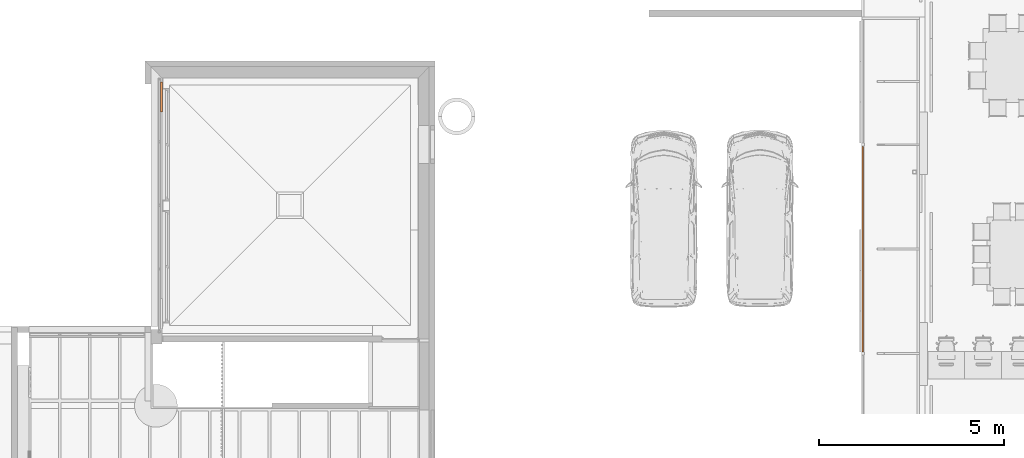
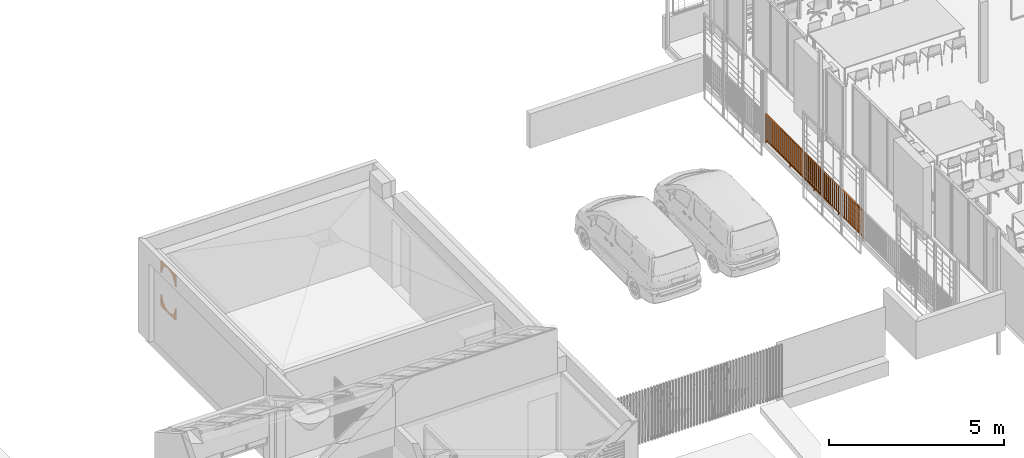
# One storey, part 43 of 51: 2 proxies.
"""IFC2X3 building model written with IfcOpenShell, lengths in metres."""

from ifc_helpers import new_model, entity, si_unit, converted_unit, derived_unit, direction, frame, frame_2d, origin, place, context, subcontext, project, spatial, polyline, circle_curve, parameter, trimmed, segment, composite_curve, rectangle, outline, extrude, source, transform, mapped, material, type_object, type_shapes, element, save


model = new_model("IFC2X3")

# Units and contexts
model_context = context("Model", 3, precision=1e-05, world=origin(), true_north=direction((6.123031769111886e-17, 1.0)))
body_context = subcontext(model_context, "Body", "Model", "MODEL_VIEW")
ifc_project = project(units=[si_unit("LENGTHUNIT", "METRE"), si_unit("AREAUNIT", "SQUARE_METRE"), si_unit("VOLUMEUNIT", "CUBIC_METRE"), converted_unit("PLANEANGLEUNIT", "DEGREE", entity("IfcRatioMeasure", 0.017453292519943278), si_unit("PLANEANGLEUNIT", "RADIAN"), dimensions=[0, 0, 0, 0, 0, 0, 0]), si_unit("MASSUNIT", "GRAM", prefix="KILO"), derived_unit("MASSDENSITYUNIT", [(si_unit("MASSUNIT", "GRAM", prefix="KILO"), 1), (si_unit("LENGTHUNIT", "METRE"), -3)]), derived_unit("MOMENTOFINERTIAUNIT", [(si_unit("LENGTHUNIT", "METRE"), 4)]), si_unit("TIMEUNIT", "SECOND"), si_unit("FREQUENCYUNIT", "HERTZ"), si_unit("THERMODYNAMICTEMPERATUREUNIT", "DEGREE_CELSIUS"), derived_unit("THERMALTRANSMITTANCEUNIT", [(si_unit("MASSUNIT", "GRAM", prefix="KILO"), 1), (si_unit("THERMODYNAMICTEMPERATUREUNIT", "KELVIN"), -1), (si_unit("TIMEUNIT", "SECOND"), -3)]), derived_unit("THERMALCONDUCTANCEUNIT", [(si_unit("MASSUNIT", "GRAM", prefix="KILO"), 1), (si_unit("LENGTHUNIT", "METRE"), 1), (si_unit("THERMODYNAMICTEMPERATUREUNIT", "KELVIN"), -1), (si_unit("TIMEUNIT", "SECOND"), -3)]), derived_unit("VOLUMETRICFLOWRATEUNIT", [(si_unit("LENGTHUNIT", "METRE"), 3), (si_unit("TIMEUNIT", "SECOND"), -1)]), derived_unit("MASSFLOWRATEUNIT", [(si_unit("MASSUNIT", "GRAM", prefix="KILO"), 1), (si_unit("TIMEUNIT", "SECOND"), -1)]), derived_unit("ROTATIONALFREQUENCYUNIT", [(si_unit("TIMEUNIT", "SECOND"), -1)]), si_unit("ELECTRICCURRENTUNIT", "AMPERE"), si_unit("ELECTRICVOLTAGEUNIT", "VOLT"), si_unit("POWERUNIT", "WATT"), si_unit("FORCEUNIT", "NEWTON", prefix="KILO"), si_unit("ILLUMINANCEUNIT", "LUX"), si_unit("LUMINOUSFLUXUNIT", "LUMEN"), si_unit("LUMINOUSINTENSITYUNIT", "CANDELA"), derived_unit("USERDEFINED", [(si_unit("MASSUNIT", "GRAM", prefix="KILO"), -1), (si_unit("LENGTHUNIT", "METRE"), -2), (si_unit("TIMEUNIT", "SECOND"), 3), (si_unit("LUMINOUSFLUXUNIT", "LUMEN"), 1)]), derived_unit("USERDEFINED", [(si_unit("MASSUNIT", "GRAM", prefix="KILO"), 1), (si_unit("LENGTHUNIT", "METRE"), 3), (si_unit("TIMEUNIT", "SECOND"), -3), (si_unit("ELECTRICCURRENTUNIT", "AMPERE"), -2)]), derived_unit("USERDEFINED", [(si_unit("LENGTHUNIT", "METRE"), 2), (si_unit("TIMEUNIT", "SECOND"), -2)]), derived_unit("SOUNDPOWERUNIT", [(si_unit("MASSUNIT", "GRAM", prefix="KILO"), 1), (si_unit("LENGTHUNIT", "METRE"), 2), (si_unit("TIMEUNIT", "SECOND"), -3)]), derived_unit("SOUNDPRESSUREUNIT", [(si_unit("MASSUNIT", "GRAM", prefix="KILO"), 1), (si_unit("LENGTHUNIT", "METRE"), -1), (si_unit("TIMEUNIT", "SECOND"), -2)]), derived_unit("LINEARVELOCITYUNIT", [(si_unit("LENGTHUNIT", "METRE"), 1), (si_unit("TIMEUNIT", "SECOND"), -1)]), si_unit("PRESSUREUNIT", "PASCAL"), derived_unit("USERDEFINED", [(si_unit("LENGTHUNIT", "METRE"), -2), (si_unit("MASSUNIT", "GRAM", prefix="KILO"), 1), (si_unit("TIMEUNIT", "SECOND"), -2)]), derived_unit("LINEARFORCEUNIT", [(si_unit("MASSUNIT", "GRAM", prefix="KILO"), 1), (si_unit("LENGTHUNIT", "METRE"), 1), (si_unit("TIMEUNIT", "SECOND"), -2), (si_unit("LENGTHUNIT", "METRE"), -1)]), derived_unit("PLANARFORCEUNIT", [(si_unit("MASSUNIT", "GRAM", prefix="KILO"), 1), (si_unit("LENGTHUNIT", "METRE"), 1), (si_unit("TIMEUNIT", "SECOND"), -2), (si_unit("LENGTHUNIT", "METRE"), -2)]), derived_unit("SPECIFICHEATCAPACITYUNIT", [(si_unit("LENGTHUNIT", "METRE"), 2), (si_unit("TIMEUNIT", "SECOND"), -2), (si_unit("THERMODYNAMICTEMPERATUREUNIT", "KELVIN"), -1)]), derived_unit("VAPORPERMEABILITYUNIT", [(si_unit("TIMEUNIT", "SECOND"), 1), (si_unit("LENGTHUNIT", "METRE"), -1)]), derived_unit("DYNAMICVISCOSITYUNIT", [(si_unit("MASSUNIT", "GRAM", prefix="KILO"), 1), (si_unit("LENGTHUNIT", "METRE"), -1), (si_unit("TIMEUNIT", "SECOND"), -1)]), derived_unit("THERMALEXPANSIONCOEFFICIENTUNIT", [(si_unit("THERMODYNAMICTEMPERATUREUNIT", "KELVIN"), -1)])], contexts=[model_context])

# Site, building, storey
site_placement = place(None, origin())
site = spatial("IfcSite", under=ifc_project, at=site_placement, Name="Default", CompositionType="ELEMENT")
building_placement = place(site_placement, origin())
building = spatial("IfcBuilding", under=site, at=building_placement, CompositionType="ELEMENT")
storey_placement = place(building_placement, frame((0.0, 0.0, 3.06)))
storey = spatial("IfcBuildingStorey", under=building, at=storey_placement, Name="ÉTAGE", CompositionType="ELEMENT", Elevation=3.06)

# Proxies
ifc_material_1 = material(Name="Bois - Chêne clair")
building_element_proxy_type_1 = type_object("IfcBuildingElementProxyType", Name="Poutre-001 244787:Poutre-001 244787", PredefinedType="NOTDEFINED", material=ifc_material_1)
shared_shape_1 = source(origin(), body_context, "Body", "SweptSolid", [
    extrude(outline(composite_curve([segment(polyline([(-0.2733333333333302, -0.13666666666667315), (0.13666666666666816, -0.13666666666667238)]), True, "CONTINUOUS"), segment(polyline([(0.13666666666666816, -0.13666666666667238), (0.13666666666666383, 0.27333333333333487)]), True, "CONTINUOUS"), segment(trimmed(circle_curve(frame_2d((-0.2733333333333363, 0.273333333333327), x_axis=(0.0, -1.0)), 0.4099999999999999), [parameter(3.053332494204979e-13)], [parameter(90.0000000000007)], True, "PARAMETER"), False, "CONTINUOUS")], self_intersect=False)), frame((120.94075226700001, 21.950542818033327, 5.583333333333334), z_axis=(1.0, 0.0, 0.0), x_axis=(0.0, 0.0, 1.0)), (0.0, 0.0, 1.0), 0.050000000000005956),
    extrude(outline(composite_curve([segment(polyline([(-0.13666666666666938, -0.13666666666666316), (0.27333333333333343, -0.13666666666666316)]), True, "CONTINUOUS"), segment(trimmed(circle_curve(frame_2d((0.27333333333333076, 0.27333333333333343), x_axis=(-1.0, 0.0)), 0.4099999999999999), [parameter(6.106664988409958e-13)], [parameter(90.0000000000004)], True, "PARAMETER"), False, "CONTINUOUS"), segment(polyline([(-0.13666666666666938, 0.2733333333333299), (-0.13666666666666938, -0.13666666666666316)]), True, "CONTINUOUS")], self_intersect=False)), frame((120.94075226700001, 21.403876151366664, 5.583333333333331), z_axis=(1.0, 0.0, 0.0), x_axis=(0.0, 0.0, -1.0)), (0.0, 0.0, 1.0), 0.050000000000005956),
    extrude(outline(composite_curve([segment(polyline([(-0.13666666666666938, -0.13666666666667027), (0.2733333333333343, -0.13666666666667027)]), True, "CONTINUOUS"), segment(trimmed(circle_curve(frame_2d((0.27333333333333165, 0.27333333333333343), x_axis=(-1.0, 0.0)), 0.4099999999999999), [parameter(6.106664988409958e-13)], [parameter(90.00000000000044)], True, "PARAMETER"), False, "CONTINUOUS"), segment(polyline([(-0.1366666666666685, 0.2733333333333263), (-0.13666666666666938, -0.13666666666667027)]), True, "CONTINUOUS")], self_intersect=False)), frame((120.94075226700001, 21.95054281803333, 4.296666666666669), z_axis=(1.0, 0.0, 0.0), x_axis=(0.0, 0.0, 1.0)), (0.0, 0.0, 1.0), 0.050000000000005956),
    extrude(outline(composite_curve([segment(polyline([(-0.27333333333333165, -0.13666666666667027), (0.13666666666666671, -0.13666666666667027)]), True, "CONTINUOUS"), segment(polyline([(0.13666666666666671, -0.13666666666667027), (0.13666666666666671, 0.27333333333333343)]), True, "CONTINUOUS"), segment(trimmed(circle_curve(frame_2d((-0.2733333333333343, 0.2733333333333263), x_axis=(0.0, -1.0)), 0.4099999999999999), [parameter(3.5622212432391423e-13)], [parameter(90.0000000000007)], True, "PARAMETER"), False, "CONTINUOUS")], self_intersect=False)), frame((120.94075226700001, 21.40387615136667, 4.296666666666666), z_axis=(1.0, 0.0, 0.0), x_axis=(0.0, 0.0, -1.0)), (0.0, 0.0, 1.0), 0.050000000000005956),
])
type_shapes(building_element_proxy_type_1, [shared_shape_1])
proxy_1_placement = place(storey_placement, frame((0.0, 0.0, -3.06)))
element("IfcBuildingElementProxy", 1, at=proxy_1_placement, inside=storey, type_object=building_element_proxy_type_1, material=ifc_material_1, Name="Poutre-001 244787:Poutre-001 244787", ObjectType="Poutre-001 244787:Poutre-001 244787", context=body_context, shape_type="MappedRepresentation", body=[
    mapped(shared_shape_1, transform((0.0, 0.0, 0.0), scale=1.0)),
])
ifc_material_2 = material(Name="Peinture - Anthracite")
building_element_proxy_type_2 = type_object("IfcBuildingElementProxyType", Name="Symb-0003", PredefinedType="NOTDEFINED", material=ifc_material_2)
shared_shape_2 = source(origin(), body_context, "Body", "SweptSolid", [
    extrude(rectangle(XDim=0.04000000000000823, YDim=0.009999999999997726, at=frame_2d((8.663209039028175e-15, 0.0), x_axis=(1.0, 0.0))), frame((139.93075228, 14.912417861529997, 4.38), z_axis=(0.0, 0.0, 1.0), x_axis=(-1.0, 0.0, 0.0)), (0.0, 0.0, 1.0), 0.9),
    extrude(rectangle(XDim=0.04000000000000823, YDim=0.009999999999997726, at=frame_2d((8.663209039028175e-15, 0.0), x_axis=(1.0, 0.0))), frame((139.93075228, 15.027626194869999, 4.38), z_axis=(0.0, 0.0, 1.0), x_axis=(-1.0, 0.0, 0.0)), (0.0, 0.0, 1.0), 0.9),
    extrude(rectangle(XDim=0.04000000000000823, YDim=0.009999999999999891, at=frame_2d((8.663209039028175e-15, -1.0829011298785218e-15), x_axis=(1.0, 0.0))), frame((139.93075228, 15.142834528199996, 4.38), z_axis=(0.0, 0.0, 1.0), x_axis=(-1.0, 0.0, 0.0)), (0.0, 0.0, 1.0), 0.9),
    extrude(rectangle(XDim=0.04000000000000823, YDim=0.009999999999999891, at=frame_2d((8.663209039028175e-15, 1.0829011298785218e-15), x_axis=(1.0, 0.0))), frame((139.93075228, 15.258042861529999, 4.38), z_axis=(0.0, 0.0, 1.0), x_axis=(-1.0, 0.0, 0.0)), (0.0, 0.0, 1.0), 0.9),
    extrude(rectangle(XDim=0.04000000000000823, YDim=0.010000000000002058, at=frame_2d((8.663209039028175e-15, -2.1658022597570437e-15), x_axis=(1.0, 0.0))), frame((139.93075228, 15.373251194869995, 4.38), z_axis=(0.0, 0.0, 1.0), x_axis=(-1.0, 0.0, 0.0)), (0.0, 0.0, 1.0), 0.9),
    extrude(rectangle(XDim=0.04000000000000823, YDim=0.009999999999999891, at=frame_2d((8.663209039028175e-15, 1.0829011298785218e-15), x_axis=(1.0, 0.0))), frame((139.93075228, 15.488459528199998, 4.38), z_axis=(0.0, 0.0, 1.0), x_axis=(-1.0, 0.0, 0.0)), (0.0, 0.0, 1.0), 0.9),
    extrude(rectangle(XDim=0.04000000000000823, YDim=0.009999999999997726, at=frame_2d((8.663209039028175e-15, 0.0), x_axis=(1.0, 0.0))), frame((139.93075228, 15.603667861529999, 4.38), z_axis=(0.0, 0.0, 1.0), x_axis=(-1.0, 0.0, 0.0)), (0.0, 0.0, 1.0), 0.9),
    extrude(rectangle(XDim=0.04000000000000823, YDim=0.009999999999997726, at=frame_2d((8.663209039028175e-15, 0.0), x_axis=(1.0, 0.0))), frame((139.93075228, 15.718876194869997, 4.38), z_axis=(0.0, 0.0, 1.0), x_axis=(-1.0, 0.0, 0.0)), (0.0, 0.0, 1.0), 0.9),
    extrude(rectangle(XDim=0.04000000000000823, YDim=0.009999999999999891, at=frame_2d((8.663209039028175e-15, 1.0829011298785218e-15), x_axis=(1.0, 0.0))), frame((139.93075228, 15.8340845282, 4.38), z_axis=(0.0, 0.0, 1.0), x_axis=(-1.0, 0.0, 0.0)), (0.0, 0.0, 1.0), 0.9),
    extrude(rectangle(XDim=0.04000000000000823, YDim=0.010000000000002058, at=frame_2d((8.663209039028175e-15, 0.0), x_axis=(1.0, 0.0))), frame((139.93075228, 15.949292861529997, 4.38), z_axis=(0.0, 0.0, 1.0), x_axis=(-1.0, 0.0, 0.0)), (0.0, 0.0, 1.0), 0.9),
    extrude(rectangle(XDim=0.04000000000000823, YDim=0.009999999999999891, at=frame_2d((8.663209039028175e-15, -1.0829011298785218e-15), x_axis=(1.0, 0.0))), frame((139.93075228, 16.064501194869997, 4.38), z_axis=(0.0, 0.0, 1.0), x_axis=(-1.0, 0.0, 0.0)), (0.0, 0.0, 1.0), 0.9),
    extrude(rectangle(XDim=0.04000000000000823, YDim=0.009999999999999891, at=frame_2d((8.663209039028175e-15, -1.0829011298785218e-15), x_axis=(1.0, 0.0))), frame((139.93075228, 16.294917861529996, 4.38), z_axis=(0.0, 0.0, 1.0), x_axis=(-1.0, 0.0, 0.0)), (0.0, 0.0, 1.0), 0.9),
    extrude(rectangle(XDim=0.04000000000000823, YDim=0.009999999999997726, at=frame_2d((8.663209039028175e-15, 0.0), x_axis=(1.0, 0.0))), frame((139.93075228, 16.41012619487, 4.38), z_axis=(0.0, 0.0, 1.0), x_axis=(-1.0, 0.0, 0.0)), (0.0, 0.0, 1.0), 0.9),
    extrude(rectangle(XDim=0.04000000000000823, YDim=0.010000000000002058, at=frame_2d((8.663209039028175e-15, -2.1658022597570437e-15), x_axis=(1.0, 0.0))), frame((139.93075228, 16.525334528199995, 4.38), z_axis=(0.0, 0.0, 1.0), x_axis=(-1.0, 0.0, 0.0)), (0.0, 0.0, 1.0), 0.9),
    extrude(rectangle(XDim=0.04000000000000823, YDim=0.010000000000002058, at=frame_2d((8.663209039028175e-15, 0.0), x_axis=(1.0, 0.0))), frame((139.93075228, 16.640542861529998, 4.38), z_axis=(0.0, 0.0, 1.0), x_axis=(-1.0, 0.0, 0.0)), (0.0, 0.0, 1.0), 0.9),
    extrude(rectangle(XDim=0.04000000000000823, YDim=0.010000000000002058, at=frame_2d((8.663209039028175e-15, 0.0), x_axis=(1.0, 0.0))), frame((139.93075228, 16.755751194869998, 4.38), z_axis=(0.0, 0.0, 1.0), x_axis=(-1.0, 0.0, 0.0)), (0.0, 0.0, 1.0), 0.9),
    extrude(rectangle(XDim=0.04000000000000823, YDim=0.010000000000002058, at=frame_2d((8.663209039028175e-15, 0.0), x_axis=(1.0, 0.0))), frame((139.93075228, 16.870959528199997, 4.38), z_axis=(0.0, 0.0, 1.0), x_axis=(-1.0, 0.0, 0.0)), (0.0, 0.0, 1.0), 0.9),
    extrude(rectangle(XDim=0.04000000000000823, YDim=0.009999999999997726, at=frame_2d((8.663209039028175e-15, 0.0), x_axis=(1.0, 0.0))), frame((139.93075228, 16.98616786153, 4.38), z_axis=(0.0, 0.0, 1.0), x_axis=(-1.0, 0.0, 0.0)), (0.0, 0.0, 1.0), 0.9),
    extrude(rectangle(XDim=0.04000000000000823, YDim=0.009999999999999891, at=frame_2d((8.663209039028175e-15, 1.0829011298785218e-15), x_axis=(1.0, 0.0))), frame((139.93075228, 17.10137619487, 4.38), z_axis=(0.0, 0.0, 1.0), x_axis=(-1.0, 0.0, 0.0)), (0.0, 0.0, 1.0), 0.9),
    extrude(rectangle(XDim=0.04000000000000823, YDim=0.009999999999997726, at=frame_2d((8.663209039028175e-15, 0.0), x_axis=(1.0, 0.0))), frame((139.93075228, 17.2165845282, 4.38), z_axis=(0.0, 0.0, 1.0), x_axis=(-1.0, 0.0, 0.0)), (0.0, 0.0, 1.0), 0.9),
    extrude(rectangle(XDim=0.04000000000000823, YDim=0.009999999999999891, at=frame_2d((8.663209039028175e-15, 1.0829011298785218e-15), x_axis=(1.0, 0.0))), frame((139.93075228, 17.33179286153, 4.38), z_axis=(0.0, 0.0, 1.0), x_axis=(-1.0, 0.0, 0.0)), (0.0, 0.0, 1.0), 0.9),
    extrude(rectangle(XDim=0.04000000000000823, YDim=0.010000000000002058, at=frame_2d((8.663209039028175e-15, 2.1658022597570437e-15), x_axis=(1.0, 0.0))), frame((139.93075228, 17.44700119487, 4.38), z_axis=(0.0, 0.0, 1.0), x_axis=(-1.0, 0.0, 0.0)), (0.0, 0.0, 1.0), 0.9),
    extrude(rectangle(XDim=0.04000000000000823, YDim=0.009999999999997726, at=frame_2d((8.663209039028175e-15, 0.0), x_axis=(1.0, 0.0))), frame((139.93075228, 17.67741786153, 4.38), z_axis=(0.0, 0.0, 1.0), x_axis=(-1.0, 0.0, 0.0)), (0.0, 0.0, 1.0), 0.9),
    extrude(rectangle(XDim=0.04000000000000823, YDim=0.009999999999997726, at=frame_2d((8.663209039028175e-15, 0.0), x_axis=(1.0, 0.0))), frame((139.93075228, 17.79262619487, 4.38), z_axis=(0.0, 0.0, 1.0), x_axis=(-1.0, 0.0, 0.0)), (0.0, 0.0, 1.0), 0.9),
    extrude(rectangle(XDim=0.04000000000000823, YDim=0.009999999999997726, at=frame_2d((8.663209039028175e-15, 0.0), x_axis=(1.0, 0.0))), frame((139.93075228, 17.9078345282, 4.38), z_axis=(0.0, 0.0, 1.0), x_axis=(-1.0, 0.0, 0.0)), (0.0, 0.0, 1.0), 0.9),
    extrude(rectangle(XDim=0.04000000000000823, YDim=0.010000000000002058, at=frame_2d((8.663209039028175e-15, 0.0), x_axis=(1.0, 0.0))), frame((139.93075228, 18.023042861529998, 4.38), z_axis=(0.0, 0.0, 1.0), x_axis=(-1.0, 0.0, 0.0)), (0.0, 0.0, 1.0), 0.9),
    extrude(rectangle(XDim=0.04000000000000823, YDim=0.010000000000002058, at=frame_2d((8.663209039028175e-15, 0.0), x_axis=(1.0, 0.0))), frame((139.93075228, 18.138251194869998, 4.38), z_axis=(0.0, 0.0, 1.0), x_axis=(-1.0, 0.0, 0.0)), (0.0, 0.0, 1.0), 0.9),
    extrude(rectangle(XDim=0.04000000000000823, YDim=0.010000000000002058, at=frame_2d((8.663209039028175e-15, 2.1658022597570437e-15), x_axis=(1.0, 0.0))), frame((139.93075228, 18.2534595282, 4.38), z_axis=(0.0, 0.0, 1.0), x_axis=(-1.0, 0.0, 0.0)), (0.0, 0.0, 1.0), 0.9),
    extrude(rectangle(XDim=0.04000000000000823, YDim=0.009999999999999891, at=frame_2d((8.663209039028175e-15, -1.0829011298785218e-15), x_axis=(1.0, 0.0))), frame((139.93075228, 18.368667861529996, 4.38), z_axis=(0.0, 0.0, 1.0), x_axis=(-1.0, 0.0, 0.0)), (0.0, 0.0, 1.0), 0.9),
    extrude(rectangle(XDim=0.04000000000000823, YDim=0.010000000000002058, at=frame_2d((8.663209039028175e-15, 0.0), x_axis=(1.0, 0.0))), frame((139.93075228, 18.483876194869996, 4.38), z_axis=(0.0, 0.0, 1.0), x_axis=(-1.0, 0.0, 0.0)), (0.0, 0.0, 1.0), 0.9),
    extrude(rectangle(XDim=0.04000000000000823, YDim=0.009999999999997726, at=frame_2d((8.663209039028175e-15, 0.0), x_axis=(1.0, 0.0))), frame((139.93075228, 18.5990845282, 4.38), z_axis=(0.0, 0.0, 1.0), x_axis=(-1.0, 0.0, 0.0)), (0.0, 0.0, 1.0), 0.9),
    extrude(rectangle(XDim=0.04000000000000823, YDim=0.009999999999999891, at=frame_2d((8.663209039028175e-15, -1.0829011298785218e-15), x_axis=(1.0, 0.0))), frame((139.93075228, 18.714292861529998, 4.38), z_axis=(0.0, 0.0, 1.0), x_axis=(-1.0, 0.0, 0.0)), (0.0, 0.0, 1.0), 0.9),
    extrude(rectangle(XDim=0.04000000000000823, YDim=0.010000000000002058, at=frame_2d((8.663209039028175e-15, 0.0), x_axis=(1.0, 0.0))), frame((139.93075228, 18.829501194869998, 4.38), z_axis=(0.0, 0.0, 1.0), x_axis=(-1.0, 0.0, 0.0)), (0.0, 0.0, 1.0), 0.9),
    extrude(rectangle(XDim=0.04000000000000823, YDim=0.009999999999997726, at=frame_2d((8.663209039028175e-15, 0.0), x_axis=(1.0, 0.0))), frame((139.93075228, 19.05991786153, 4.38), z_axis=(0.0, 0.0, 1.0), x_axis=(-1.0, 0.0, 0.0)), (0.0, 0.0, 1.0), 0.9),
    extrude(rectangle(XDim=0.04000000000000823, YDim=0.009999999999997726, at=frame_2d((8.663209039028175e-15, 0.0), x_axis=(1.0, 0.0))), frame((139.93075228, 19.17512619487, 4.38), z_axis=(0.0, 0.0, 1.0), x_axis=(-1.0, 0.0, 0.0)), (0.0, 0.0, 1.0), 0.9),
    extrude(rectangle(XDim=0.04000000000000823, YDim=0.009999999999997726, at=frame_2d((8.663209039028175e-15, 0.0), x_axis=(1.0, 0.0))), frame((139.93075228, 19.2903345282, 4.38), z_axis=(0.0, 0.0, 1.0), x_axis=(-1.0, 0.0, 0.0)), (0.0, 0.0, 1.0), 0.9),
    extrude(rectangle(XDim=0.04000000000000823, YDim=0.010000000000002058, at=frame_2d((8.663209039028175e-15, 0.0), x_axis=(1.0, 0.0))), frame((139.93075228, 19.405542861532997, 4.38), z_axis=(0.0, 0.0, 1.0), x_axis=(-1.0, 0.0, 0.0)), (0.0, 0.0, 1.0), 0.9),
    extrude(rectangle(XDim=0.04000000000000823, YDim=0.009999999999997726, at=frame_2d((8.663209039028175e-15, 0.0), x_axis=(1.0, 0.0))), frame((139.93075228, 19.520751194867, 4.38), z_axis=(0.0, 0.0, 1.0), x_axis=(-1.0, 0.0, 0.0)), (0.0, 0.0, 1.0), 0.9),
    extrude(rectangle(XDim=0.04000000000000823, YDim=0.010000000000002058, at=frame_2d((8.663209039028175e-15, -2.1658022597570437e-15), x_axis=(1.0, 0.0))), frame((139.93075228, 19.635959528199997, 4.38), z_axis=(0.0, 0.0, 1.0), x_axis=(-1.0, 0.0, 0.0)), (0.0, 0.0, 1.0), 0.9),
    extrude(rectangle(XDim=0.04000000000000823, YDim=0.010000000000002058, at=frame_2d((8.663209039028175e-15, 2.1658022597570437e-15), x_axis=(1.0, 0.0))), frame((139.93075228, 19.751167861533, 4.38), z_axis=(0.0, 0.0, 1.0), x_axis=(-1.0, 0.0, 0.0)), (0.0, 0.0, 1.0), 0.9),
    extrude(rectangle(XDim=0.04000000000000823, YDim=0.010000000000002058, at=frame_2d((8.663209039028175e-15, -2.1658022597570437e-15), x_axis=(1.0, 0.0))), frame((139.93075228, 19.866376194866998, 4.38), z_axis=(0.0, 0.0, 1.0), x_axis=(-1.0, 0.0, 0.0)), (0.0, 0.0, 1.0), 0.9),
    extrude(rectangle(XDim=0.04000000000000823, YDim=0.009999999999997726, at=frame_2d((8.663209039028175e-15, 0.0), x_axis=(1.0, 0.0))), frame((139.93075228, 19.9815845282, 4.38), z_axis=(0.0, 0.0, 1.0), x_axis=(-1.0, 0.0, 0.0)), (0.0, 0.0, 1.0), 0.9),
    extrude(rectangle(XDim=0.04000000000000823, YDim=0.010000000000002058, at=frame_2d((8.663209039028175e-15, 2.1658022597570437e-15), x_axis=(1.0, 0.0))), frame((139.93075228, 20.096792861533, 4.38), z_axis=(0.0, 0.0, 1.0), x_axis=(-1.0, 0.0, 0.0)), (0.0, 0.0, 1.0), 0.9),
    extrude(rectangle(XDim=0.04000000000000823, YDim=0.010000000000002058, at=frame_2d((8.663209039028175e-15, 2.1658022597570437e-15), x_axis=(1.0, 0.0))), frame((139.93075228, 20.212001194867, 4.38), z_axis=(0.0, 0.0, 1.0), x_axis=(-1.0, 0.0, 0.0)), (0.0, 0.0, 1.0), 0.9),
    extrude(rectangle(XDim=0.04000000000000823, YDim=1.3724999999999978, at=frame_2d((8.663209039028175e-15, 1.0547118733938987e-15), x_axis=(1.0, 0.0))), frame((139.93075228, 15.488459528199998, 4.37), z_axis=(0.0, 0.0, 1.0), x_axis=(-1.0, 0.0, 0.0)), (0.0, 0.0, 1.0), 0.009999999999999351),
    extrude(rectangle(XDim=0.04000000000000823, YDim=1.3724999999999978, at=frame_2d((-8.663209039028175e-15, -1.0547118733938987e-15), x_axis=(1.0, 0.0))), frame((139.93075228, 16.870959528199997, 4.37)), (0.0, 0.0, 1.0), 0.009999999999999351),
    extrude(rectangle(XDim=0.04000000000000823, YDim=1.3724999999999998, at=frame_2d((-8.663209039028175e-15, 0.0), x_axis=(1.0, 0.0))), frame((139.93075228, 18.253459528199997, 4.37)), (0.0, 0.0, 1.0), 0.009999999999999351),
    extrude(rectangle(XDim=0.04000000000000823, YDim=1.3724999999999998, at=frame_2d((-8.663209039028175e-15, 0.0), x_axis=(1.0, 0.0))), frame((139.93075228, 19.635959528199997, 4.37)), (0.0, 0.0, 1.0), 0.009999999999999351),
    extrude(rectangle(XDim=0.04000000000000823, YDim=0.009999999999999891, at=frame_2d((8.663209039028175e-15, -1.0829011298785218e-15), x_axis=(1.0, 0.0))), frame((139.93075228, 14.797209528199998, 4.27), z_axis=(0.0, 0.0, 1.0), x_axis=(-1.0, 0.0, 0.0)), (0.0, 0.0, 1.0), 1.01),
    extrude(rectangle(XDim=0.04000000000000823, YDim=0.010000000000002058, at=frame_2d((8.663209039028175e-15, -2.1658022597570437e-15), x_axis=(1.0, 0.0))), frame((139.93075228, 16.179709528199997, 4.27), z_axis=(0.0, 0.0, 1.0), x_axis=(-1.0, 0.0, 0.0)), (0.0, 0.0, 1.0), 1.01),
    extrude(rectangle(XDim=0.04000000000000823, YDim=0.010000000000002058, at=frame_2d((8.663209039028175e-15, 0.0), x_axis=(1.0, 0.0))), frame((139.93075228, 17.562209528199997, 4.27), z_axis=(0.0, 0.0, 1.0), x_axis=(-1.0, 0.0, 0.0)), (0.0, 0.0, 1.0), 1.01),
    extrude(rectangle(XDim=0.04000000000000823, YDim=0.009999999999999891, at=frame_2d((8.663209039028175e-15, -1.0829011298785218e-15), x_axis=(1.0, 0.0))), frame((139.93075228, 18.944709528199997, 4.27), z_axis=(0.0, 0.0, 1.0), x_axis=(-1.0, 0.0, 0.0)), (0.0, 0.0, 1.0), 1.01),
    extrude(rectangle(XDim=0.04000000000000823, YDim=0.010000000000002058, at=frame_2d((8.663209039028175e-15, -2.1658022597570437e-15), x_axis=(1.0, 0.0))), frame((139.93075228, 20.327209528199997, 4.27), z_axis=(0.0, 0.0, 1.0), x_axis=(-1.0, 0.0, 0.0)), (0.0, 0.0, 1.0), 1.01),
    extrude(rectangle(XDim=5.550000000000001, YDim=0.04000000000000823, at=frame_2d((1.1102230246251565e-15, 8.663209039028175e-15), x_axis=(1.0, 0.0))), frame((139.93075228, 17.562209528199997, 5.279999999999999), z_axis=(0.0, 0.0, 1.0), x_axis=(0.0, 1.0, 0.0)), (0.0, 0.0, 1.0), 0.009999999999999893),
])
type_shapes(building_element_proxy_type_2, [shared_shape_2])
proxy_2_placement = place(storey_placement, frame((0.0, 0.0, -3.06)))
element("IfcBuildingElementProxy", 2, at=proxy_2_placement, inside=storey, type_object=building_element_proxy_type_2, material=ifc_material_2, Name="Symb-0003 470760:Symb-0003 470760", ObjectType="Symb-0003 470760:Symb-0003 470760", context=body_context, shape_type="MappedRepresentation", body=[
    mapped(shared_shape_2, transform((0.0, 0.0, 0.0), scale=1.0)),
])

save(model, "model.ifc")
